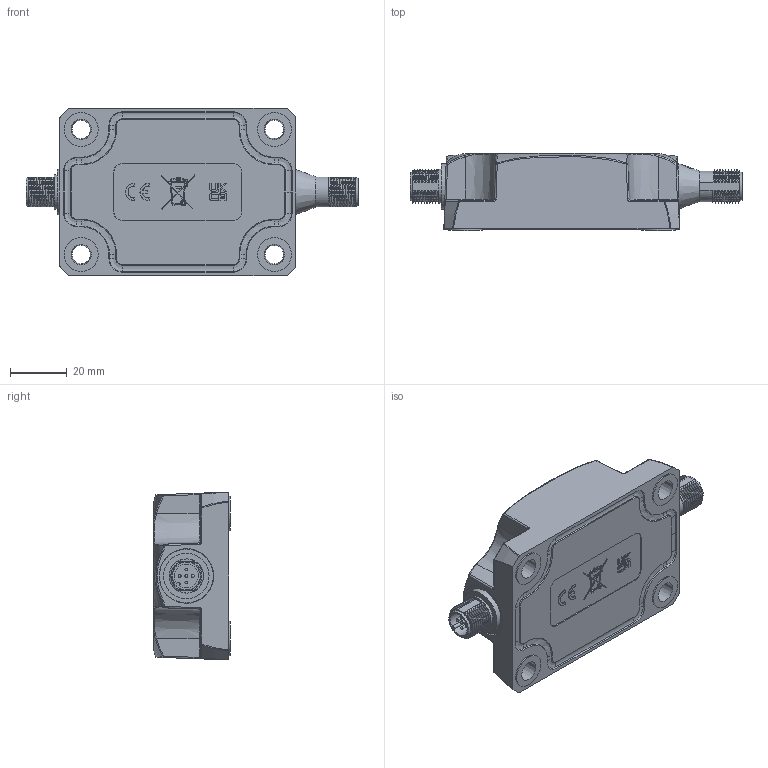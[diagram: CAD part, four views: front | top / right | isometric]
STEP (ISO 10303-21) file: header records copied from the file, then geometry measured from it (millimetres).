
FILE_DESCRIPTION (( 'STEP AP214' ), '1' );
FILE_NAME ('ACS3-K3-PL-POSITAL.STEP', '2022-07-05T15:12:48', ( '' ), ( '' ), 'SwSTEP 2.0', 'SolidWorks 2022', '' );
FILE_SCHEMA (( 'AUTOMOTIVE_DESIGN' ));
Length unit declared in the file: millimetre
Products named in the file (1): ACS3-K3-PL-POSITAL
Bounding box: 116.8 x 27 x 59 mm (x, y, z)
Volume: 106809.9 mm3; surface area: 19713.6 mm2
Topology: 1 solids, 1 shells, 744 faces, 1951 edges, 1241 vertices
Faces by surface type: plane 347, bspline 222, cylinder 87, cone 54, sphere 26, torus 8
Full cylindrical faces by diameter (mm): 1 x10, 10.77 x1, 12 x1, 16 x2, 19 x1
Entity records: 53567 total; most frequent: CARTESIAN_POINT 33094, ORIENTED_EDGE 3734, DIRECTION 2554, EDGE_CURVE 1867, VERTEX_POINT 1221, VECTOR 1012, LINE 1012, EDGE_LOOP 848
